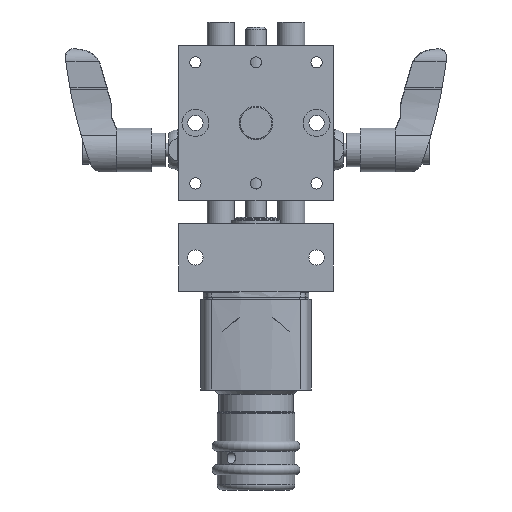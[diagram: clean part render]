
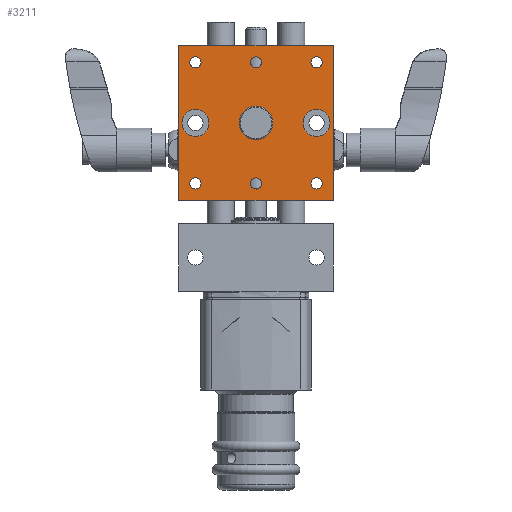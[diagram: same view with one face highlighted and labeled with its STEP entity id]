
A CAD part, front view. The second image highlights one B-rep face of the part: STEP entity #3211.
In plain terms, the highlighted planar face has unit normal (0, -1, 0) as drawn and (0, 0, -1) by its records, which use the part's own axes.
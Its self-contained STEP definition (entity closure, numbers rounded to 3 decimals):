
#358 = DIRECTION ( 'NONE',  ( 1., 0., 0. ) ) ;
#746 = CARTESIAN_POINT ( 'NONE',  ( 5., 41., -20. ) ) ;
#1003 = CARTESIAN_POINT ( 'NONE',  ( 42.65, 5., -20. ) ) ;
#1151 = CARTESIAN_POINT ( 'NONE',  ( 6.65, 5., -20. ) ) ;
#1209 = EDGE_CURVE ( 'NONE', #21406, #14320, #15554, .T. ) ;
#1324 = CARTESIAN_POINT ( 'NONE',  ( 6.65, 23., -20. ) ) ;
#1343 = DIRECTION ( 'NONE',  ( -1., 0., 0. ) ) ;
#1449 = CARTESIAN_POINT ( 'NONE',  ( 0., 46., -20. ) ) ;
#1497 = CARTESIAN_POINT ( 'NONE',  ( 0., 0., -20. ) ) ;
#1633 = EDGE_CURVE ( 'NONE', #14129, #14129, #20905, .T. ) ;
#1697 = EDGE_LOOP ( 'NONE', ( #21913, #14767, #11792, #13424 ) ) ;
#1736 = CARTESIAN_POINT ( 'NONE',  ( 41., 23., -20. ) ) ;
#1771 = VERTEX_POINT ( 'NONE', #1497 ) ;
#1925 = DIRECTION ( 'NONE',  ( 0., 0., 1. ) ) ;
#2241 = DIRECTION ( 'NONE',  ( 0., 0., 1. ) ) ;
#2495 = DIRECTION ( 'NONE',  ( 0., 0., 1. ) ) ;
#2838 = EDGE_CURVE ( 'NONE', #19981, #19981, #4303, .T. ) ;
#2874 = EDGE_CURVE ( 'NONE', #14320, #23349, #17077, .T. ) ;
#3183 = VERTEX_POINT ( 'NONE', #19892 ) ;
#3184 = FACE_BOUND ( 'NONE', #15918, .T. ) ;
#3211 = ADVANCED_FACE ( 'NONE', ( #14377, #17947, #23567, #3184, #10685, #18170, #9205, #24162, #16683, #3902 ), #17045, .T. ) ;
#3282 = DIRECTION ( 'NONE',  ( 1., 0., 0. ) ) ;
#3401 = EDGE_CURVE ( 'NONE', #23349, #1771, #10536, .T. ) ;
#3663 = EDGE_LOOP ( 'NONE', ( #18005 ) ) ;
#3692 = DIRECTION ( 'NONE',  ( -1., 0., 0. ) ) ;
#3764 = CARTESIAN_POINT ( 'NONE',  ( 5., 5., -20. ) ) ;
#3902 = FACE_OUTER_BOUND ( 'NONE', #1697, .T. ) ;
#3930 = CARTESIAN_POINT ( 'NONE',  ( 0., 46., -20. ) ) ;
#4251 = CIRCLE ( 'NONE', #16029, 4. ) ;
#4303 = CIRCLE ( 'NONE', #18779, 1.65 ) ;
#4627 = CARTESIAN_POINT ( 'NONE',  ( 46., 46., -20. ) ) ;
#4947 = VERTEX_POINT ( 'NONE', #1151 ) ;
#5064 = VECTOR ( 'NONE', #3692, 1000. ) ;
#5090 = EDGE_LOOP ( 'NONE', ( #19154 ) ) ;
#5104 = DIRECTION ( 'NONE',  ( 0., -1., 0. ) ) ;
#5475 = EDGE_CURVE ( 'NONE', #22293, #22293, #20876, .T. ) ;
#5478 = CARTESIAN_POINT ( 'NONE',  ( 27., 5., -20. ) ) ;
#5497 = CARTESIAN_POINT ( 'NONE',  ( 0., 46., -20. ) ) ;
#5835 = CARTESIAN_POINT ( 'NONE',  ( 0., 0., -20. ) ) ;
#5891 = DIRECTION ( 'NONE',  ( 1., 0., 0. ) ) ;
#6153 = DIRECTION ( 'NONE',  ( 0., 0., 1. ) ) ;
#6513 = ORIENTED_EDGE ( 'NONE', *, *, #1633, .T. ) ;
#7091 = CARTESIAN_POINT ( 'NONE',  ( 23., 5., -20. ) ) ;
#7621 = CARTESIAN_POINT ( 'NONE',  ( 6.65, 41., -20. ) ) ;
#7877 = DIRECTION ( 'NONE',  ( 0., 0., 1. ) ) ;
#7906 = EDGE_LOOP ( 'NONE', ( #23409 ) ) ;
#7924 = LINE ( 'NONE', #5835, #10423 ) ;
#8724 = EDGE_LOOP ( 'NONE', ( #23340 ) ) ;
#8759 = AXIS2_PLACEMENT_3D ( 'NONE', #5497, #11409, #11043 ) ;
#8788 = AXIS2_PLACEMENT_3D ( 'NONE', #10375, #2495, #15522 ) ;
#9034 = EDGE_LOOP ( 'NONE', ( #23097 ) ) ;
#9198 = CARTESIAN_POINT ( 'NONE',  ( 23., 41., -20. ) ) ;
#9205 = FACE_BOUND ( 'NONE', #5090, .T. ) ;
#9679 = CARTESIAN_POINT ( 'NONE',  ( 42.65, 41., -20. ) ) ;
#10375 = CARTESIAN_POINT ( 'NONE',  ( 5., 23., -20. ) ) ;
#10415 = AXIS2_PLACEMENT_3D ( 'NONE', #23064, #15832, #358 ) ;
#10423 = VECTOR ( 'NONE', #17259, 1000. ) ;
#10511 = EDGE_CURVE ( 'NONE', #20933, #20933, #15215, .T. ) ;
#10536 = LINE ( 'NONE', #19849, #19680 ) ;
#10581 = CARTESIAN_POINT ( 'NONE',  ( 46., 0., -20. ) ) ;
#10685 = FACE_BOUND ( 'NONE', #7906, .T. ) ;
#10701 = EDGE_CURVE ( 'NONE', #12132, #12132, #4251, .T. ) ;
#10828 = VECTOR ( 'NONE', #23399, 1000. ) ;
#11043 = DIRECTION ( 'NONE',  ( -1., 0., 0. ) ) ;
#11153 = DIRECTION ( 'NONE',  ( 1., 0., 0. ) ) ;
#11409 = DIRECTION ( 'NONE',  ( 0., 0., -1. ) ) ;
#11792 = ORIENTED_EDGE ( 'NONE', *, *, #1209, .F. ) ;
#12132 = VERTEX_POINT ( 'NONE', #19609 ) ;
#13424 = ORIENTED_EDGE ( 'NONE', *, *, #14171, .F. ) ;
#13619 = ORIENTED_EDGE ( 'NONE', *, *, #10701, .F. ) ;
#13769 = EDGE_LOOP ( 'NONE', ( #17682 ) ) ;
#14129 = VERTEX_POINT ( 'NONE', #1324 ) ;
#14171 = EDGE_CURVE ( 'NONE', #1771, #21406, #7924, .T. ) ;
#14320 = VERTEX_POINT ( 'NONE', #4627 ) ;
#14377 = FACE_BOUND ( 'NONE', #13769, .T. ) ;
#14767 = ORIENTED_EDGE ( 'NONE', *, *, #2874, .F. ) ;
#14998 = DIRECTION ( 'NONE',  ( 1., 0., 0. ) ) ;
#15215 = CIRCLE ( 'NONE', #18345, 1.65 ) ;
#15522 = DIRECTION ( 'NONE',  ( 1., 0., 0. ) ) ;
#15554 = LINE ( 'NONE', #17763, #10828 ) ;
#15631 = CARTESIAN_POINT ( 'NONE',  ( 41., 5., -20. ) ) ;
#15832 = DIRECTION ( 'NONE',  ( 0., 0., 1. ) ) ;
#15918 = EDGE_LOOP ( 'NONE', ( #16767 ) ) ;
#16029 = AXIS2_PLACEMENT_3D ( 'NONE', #9198, #23799, #1343 ) ;
#16087 = EDGE_CURVE ( 'NONE', #4947, #4947, #23421, .T. ) ;
#16683 = FACE_BOUND ( 'NONE', #8724, .T. ) ;
#16767 = ORIENTED_EDGE ( 'NONE', *, *, #2838, .T. ) ;
#17045 = PLANE ( 'NONE',  #8759 ) ;
#17077 = LINE ( 'NONE', #3930, #5064 ) ;
#17168 = EDGE_LOOP ( 'NONE', ( #6513 ) ) ;
#17207 = DIRECTION ( 'NONE',  ( 1., 0., 0. ) ) ;
#17259 = DIRECTION ( 'NONE',  ( 1., 0., 0. ) ) ;
#17440 = DIRECTION ( 'NONE',  ( 1., 0., 0. ) ) ;
#17682 = ORIENTED_EDGE ( 'NONE', *, *, #18050, .T. ) ;
#17763 = CARTESIAN_POINT ( 'NONE',  ( 46., 0., -20. ) ) ;
#17828 = VERTEX_POINT ( 'NONE', #1003 ) ;
#17947 = FACE_BOUND ( 'NONE', #3663, .T. ) ;
#18005 = ORIENTED_EDGE ( 'NONE', *, *, #10511, .T. ) ;
#18050 = EDGE_CURVE ( 'NONE', #18671, #18671, #18332, .T. ) ;
#18170 = FACE_BOUND ( 'NONE', #9034, .T. ) ;
#18332 = CIRCLE ( 'NONE', #19886, 1.65 ) ;
#18345 = AXIS2_PLACEMENT_3D ( 'NONE', #20610, #6153, #5891 ) ;
#18671 = VERTEX_POINT ( 'NONE', #7621 ) ;
#18779 = AXIS2_PLACEMENT_3D ( 'NONE', #1736, #7877, #14998 ) ;
#19098 = AXIS2_PLACEMENT_3D ( 'NONE', #3764, #1925, #11153 ) ;
#19154 = ORIENTED_EDGE ( 'NONE', *, *, #5475, .F. ) ;
#19609 = CARTESIAN_POINT ( 'NONE',  ( 19., 41., -20. ) ) ;
#19680 = VECTOR ( 'NONE', #5104, 1000. ) ;
#19849 = CARTESIAN_POINT ( 'NONE',  ( 0., 0., -20. ) ) ;
#19886 = AXIS2_PLACEMENT_3D ( 'NONE', #746, #21915, #17440 ) ;
#19892 = CARTESIAN_POINT ( 'NONE',  ( 28., 23., -20. ) ) ;
#19981 = VERTEX_POINT ( 'NONE', #21931 ) ;
#20088 = EDGE_LOOP ( 'NONE', ( #13619 ) ) ;
#20100 = DIRECTION ( 'NONE',  ( 0., 0., -1. ) ) ;
#20538 = CIRCLE ( 'NONE', #22443, 1.65 ) ;
#20610 = CARTESIAN_POINT ( 'NONE',  ( 41., 41., -20. ) ) ;
#20876 = CIRCLE ( 'NONE', #24013, 4. ) ;
#20905 = CIRCLE ( 'NONE', #8788, 1.65 ) ;
#20933 = VERTEX_POINT ( 'NONE', #9679 ) ;
#21249 = EDGE_CURVE ( 'NONE', #17828, #17828, #20538, .T. ) ;
#21371 = CIRCLE ( 'NONE', #10415, 5. ) ;
#21406 = VERTEX_POINT ( 'NONE', #10581 ) ;
#21913 = ORIENTED_EDGE ( 'NONE', *, *, #3401, .F. ) ;
#21915 = DIRECTION ( 'NONE',  ( 0., 0., 1. ) ) ;
#21931 = CARTESIAN_POINT ( 'NONE',  ( 42.65, 23., -20. ) ) ;
#22293 = VERTEX_POINT ( 'NONE', #5478 ) ;
#22443 = AXIS2_PLACEMENT_3D ( 'NONE', #15631, #2241, #17207 ) ;
#23064 = CARTESIAN_POINT ( 'NONE',  ( 23., 23., -20. ) ) ;
#23097 = ORIENTED_EDGE ( 'NONE', *, *, #21249, .T. ) ;
#23240 = EDGE_CURVE ( 'NONE', #3183, #3183, #21371, .T. ) ;
#23340 = ORIENTED_EDGE ( 'NONE', *, *, #23240, .T. ) ;
#23349 = VERTEX_POINT ( 'NONE', #1449 ) ;
#23399 = DIRECTION ( 'NONE',  ( 0., 1., 0. ) ) ;
#23409 = ORIENTED_EDGE ( 'NONE', *, *, #16087, .T. ) ;
#23421 = CIRCLE ( 'NONE', #19098, 1.65 ) ;
#23567 = FACE_BOUND ( 'NONE', #17168, .T. ) ;
#23799 = DIRECTION ( 'NONE',  ( 0., 0., -1. ) ) ;
#24013 = AXIS2_PLACEMENT_3D ( 'NONE', #7091, #20100, #3282 ) ;
#24162 = FACE_BOUND ( 'NONE', #20088, .T. ) ;
